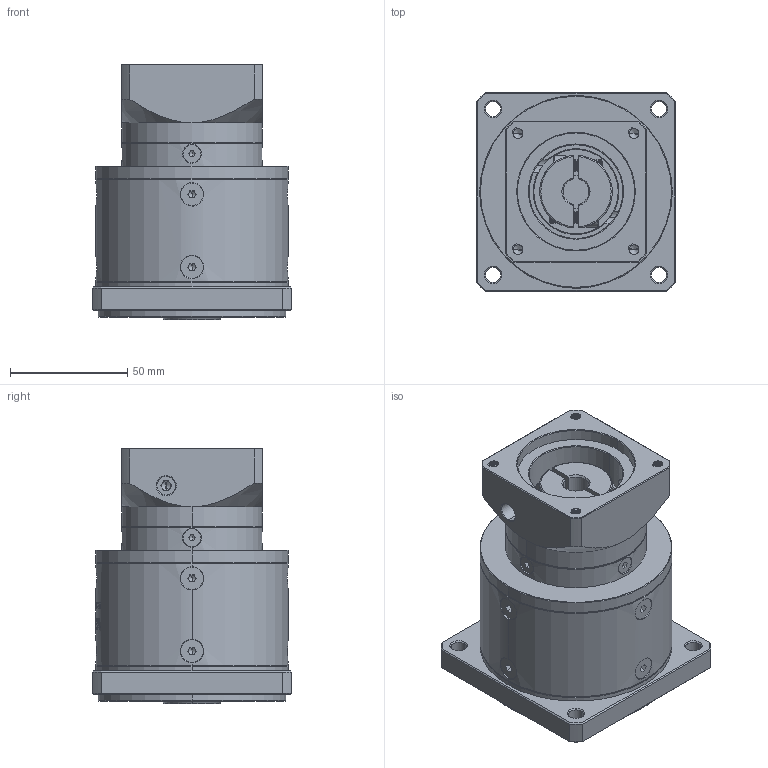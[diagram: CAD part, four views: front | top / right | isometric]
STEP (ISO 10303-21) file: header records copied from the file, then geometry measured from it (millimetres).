
FILE_DESCRIPTION (( 'STEP AP214' ), '1' );
FILE_NAME ('ZF80-K15-L2-11-50-70-M5.step', '2022-09-16T05:31:47', ( '' ), ( 'Microsoft' ), 'SwSTEP 2.0', 'SolidWorks 2016', '' );
FILE_SCHEMA (( 'AUTOMOTIVE_DESIGN' ));
Length unit declared in the file: millimetre
Products named in the file (1): ZF80-K15-L2-11-50-70-M5
Bounding box: 85 x 85 x 109 mm (x, y, z)
Volume: 452951.5 mm3; surface area: 66409.4 mm2
Topology: 18 solids, 18 shells, 1992 faces, 5216 edges, 3319 vertices
Faces by surface type: plane 941, cylinder 398, cone 321, bspline 318, torus 14
Entity records: 104754 total; most frequent: CARTESIAN_POINT 37152, ORIENTED_EDGE 10360, DIRECTION 8302, EDGE_CURVE 5180, VERTEX_POINT 3319, LINE 2820, VECTOR 2820, AXIS2_PLACEMENT_3D 2741
